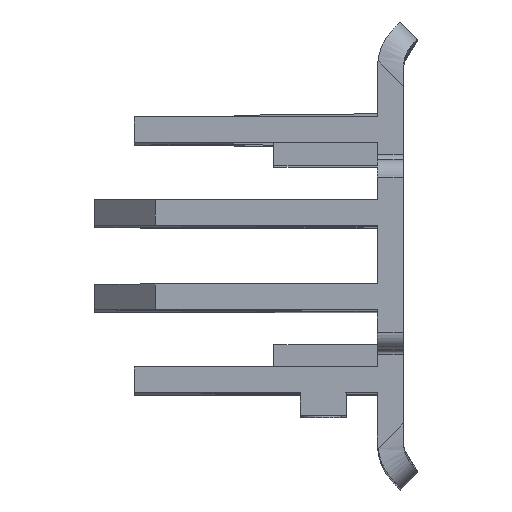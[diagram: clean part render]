
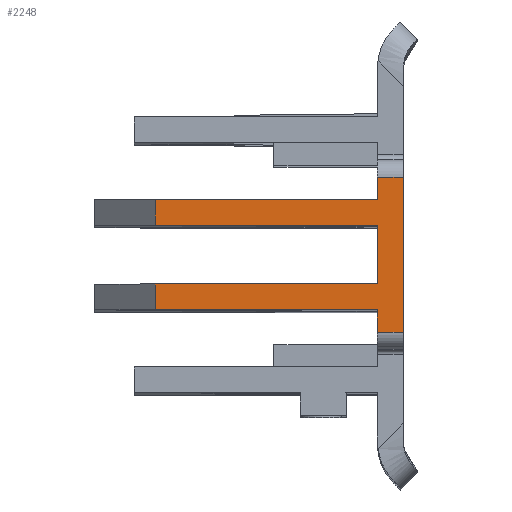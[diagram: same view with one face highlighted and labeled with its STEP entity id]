
A CAD part, top view. The second image highlights one B-rep face of the part: STEP entity #2248.
In plain terms, the highlighted planar face has unit normal (0, 0, 1).
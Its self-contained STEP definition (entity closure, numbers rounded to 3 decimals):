
#4 = EDGE_CURVE ( 'NONE', #1374, #4087, #2778, .T. ) ;
#18 = ORIENTED_EDGE ( 'NONE', *, *, #4246, .F. ) ;
#63 = CARTESIAN_POINT ( 'NONE',  ( 61., 10.658, 45. ) ) ;
#85 = ORIENTED_EDGE ( 'NONE', *, *, #457, .F. ) ;
#86 = EDGE_CURVE ( 'NONE', #1599, #775, #181, .T. ) ;
#106 = DIRECTION ( 'NONE',  ( 0., -1., 0. ) ) ;
#147 = VERTEX_POINT ( 'NONE', #1218 ) ;
#181 = LINE ( 'NONE', #4239, #628 ) ;
#230 = DIRECTION ( 'NONE',  ( -1., 0., 0. ) ) ;
#282 = EDGE_CURVE ( 'NONE', #1037, #2498, #3310, .T. ) ;
#295 = VECTOR ( 'NONE', #1263, 1000. ) ;
#300 = DIRECTION ( 'NONE',  ( 0., -1., 0. ) ) ;
#378 = LINE ( 'NONE', #2771, #776 ) ;
#396 = CARTESIAN_POINT ( 'NONE',  ( 61., 14.442, 45. ) ) ;
#457 = EDGE_CURVE ( 'NONE', #1599, #3271, #378, .T. ) ;
#613 = CARTESIAN_POINT ( 'NONE',  ( 59.5, 10.5, 45. ) ) ;
#628 = VECTOR ( 'NONE', #1148, 1000. ) ;
#700 = EDGE_CURVE ( 'NONE', #4155, #2790, #2575, .T. ) ;
#716 = LINE ( 'NONE', #1404, #3494 ) ;
#775 = VERTEX_POINT ( 'NONE', #4012 ) ;
#776 = VECTOR ( 'NONE', #1699, 1000. ) ;
#861 = ORIENTED_EDGE ( 'NONE', *, *, #3795, .T. ) ;
#884 = CARTESIAN_POINT ( 'NONE',  ( 46.616, 18.2, 45. ) ) ;
#917 = CARTESIAN_POINT ( 'NONE',  ( 59.5, 13.3, 45. ) ) ;
#975 = DIRECTION ( 'NONE',  ( 0., 0., 1. ) ) ;
#983 = EDGE_CURVE ( 'NONE', #3781, #3733, #2219, .T. ) ;
#1037 = VERTEX_POINT ( 'NONE', #1154 ) ;
#1148 = DIRECTION ( 'NONE',  ( -1., 0., 0. ) ) ;
#1151 = CARTESIAN_POINT ( 'NONE',  ( 46.616, 11.8, 45. ) ) ;
#1154 = CARTESIAN_POINT ( 'NONE',  ( 59.5, 11.8, 45. ) ) ;
#1178 = CARTESIAN_POINT ( 'NONE',  ( 59.5, 10.5, 45. ) ) ;
#1218 = CARTESIAN_POINT ( 'NONE',  ( 46.616, 13.3, 45. ) ) ;
#1233 = DIRECTION ( 'NONE',  ( 0., 1., 0. ) ) ;
#1257 = LINE ( 'NONE', #613, #3185 ) ;
#1263 = DIRECTION ( 'NONE',  ( -1., 0., 0. ) ) ;
#1374 = VERTEX_POINT ( 'NONE', #1902 ) ;
#1404 = CARTESIAN_POINT ( 'NONE',  ( 46.616, 13.3, 45. ) ) ;
#1487 = ORIENTED_EDGE ( 'NONE', *, *, #282, .F. ) ;
#1569 = EDGE_CURVE ( 'NONE', #4155, #147, #4330, .T. ) ;
#1589 = FACE_OUTER_BOUND ( 'NONE', #3401, .T. ) ;
#1599 = VERTEX_POINT ( 'NONE', #3683 ) ;
#1647 = VECTOR ( 'NONE', #4276, 1000. ) ;
#1661 = CARTESIAN_POINT ( 'NONE',  ( 61., 15.558, 45. ) ) ;
#1690 = CARTESIAN_POINT ( 'NONE',  ( 61., 15.558, 45. ) ) ;
#1698 = CARTESIAN_POINT ( 'NONE',  ( 46.616, 16.7, 45. ) ) ;
#1699 = DIRECTION ( 'NONE',  ( 0., 1., 0. ) ) ;
#1780 = ORIENTED_EDGE ( 'NONE', *, *, #2113, .T. ) ;
#1803 = LINE ( 'NONE', #3143, #4091 ) ;
#1825 = LINE ( 'NONE', #884, #1647 ) ;
#1849 = DIRECTION ( 'NONE',  ( 0., -1., 0. ) ) ;
#1878 = PLANE ( 'NONE',  #2864 ) ;
#1885 = DIRECTION ( 'NONE',  ( 0., -1., 0. ) ) ;
#1902 = CARTESIAN_POINT ( 'NONE',  ( 61., 19.342, 45. ) ) ;
#1906 = ORIENTED_EDGE ( 'NONE', *, *, #2890, .F. ) ;
#1928 = ORIENTED_EDGE ( 'NONE', *, *, #700, .F. ) ;
#2000 = EDGE_CURVE ( 'NONE', #3498, #1037, #1257, .T. ) ;
#2089 = EDGE_CURVE ( 'NONE', #775, #3542, #1825, .T. ) ;
#2098 = VECTOR ( 'NONE', #300, 1000. ) ;
#2113 = EDGE_CURVE ( 'NONE', #3150, #3271, #3501, .T. ) ;
#2177 = DIRECTION ( 'NONE',  ( -1., 0., 0. ) ) ;
#2188 = DIRECTION ( 'NONE',  ( 0., -1., 0. ) ) ;
#2214 = VECTOR ( 'NONE', #2177, 1000. ) ;
#2219 = LINE ( 'NONE', #4249, #2685 ) ;
#2248 = ADVANCED_FACE ( 'NONE', ( #1589 ), #1878, .T. ) ;
#2343 = CARTESIAN_POINT ( 'NONE',  ( 59.5, 11.8, 45. ) ) ;
#2454 = EDGE_CURVE ( 'NONE', #3150, #1374, #1803, .T. ) ;
#2498 = VERTEX_POINT ( 'NONE', #1151 ) ;
#2523 = DIRECTION ( 'NONE',  ( 1., 0., 0. ) ) ;
#2562 = EDGE_CURVE ( 'NONE', #4087, #3129, #3246, .T. ) ;
#2575 = LINE ( 'NONE', #3328, #3785 ) ;
#2601 = LINE ( 'NONE', #1178, #3676 ) ;
#2685 = VECTOR ( 'NONE', #1885, 1000. ) ;
#2752 = CARTESIAN_POINT ( 'NONE',  ( 59.5, 10.5, 45. ) ) ;
#2771 = CARTESIAN_POINT ( 'NONE',  ( 59.5, 18.2, 45. ) ) ;
#2778 = LINE ( 'NONE', #3446, #4272 ) ;
#2782 = ORIENTED_EDGE ( 'NONE', *, *, #1569, .T. ) ;
#2790 = VERTEX_POINT ( 'NONE', #3513 ) ;
#2864 = AXIS2_PLACEMENT_3D ( 'NONE', #4305, #975, #2977 ) ;
#2869 = LINE ( 'NONE', #3560, #3430 ) ;
#2890 = EDGE_CURVE ( 'NONE', #3129, #3781, #4165, .T. ) ;
#2935 = CARTESIAN_POINT ( 'NONE',  ( 59.5, 13.3, 45. ) ) ;
#2966 = ORIENTED_EDGE ( 'NONE', *, *, #983, .F. ) ;
#2977 = DIRECTION ( 'NONE',  ( 1., 0., 0. ) ) ;
#3129 = VERTEX_POINT ( 'NONE', #396 ) ;
#3133 = VECTOR ( 'NONE', #4017, 1000. ) ;
#3143 = CARTESIAN_POINT ( 'NONE',  ( 61., 19.5, 45. ) ) ;
#3150 = VERTEX_POINT ( 'NONE', #3416 ) ;
#3185 = VECTOR ( 'NONE', #1233, 1000. ) ;
#3228 = ORIENTED_EDGE ( 'NONE', *, *, #3457, .T. ) ;
#3246 = LINE ( 'NONE', #1661, #2098 ) ;
#3248 = ORIENTED_EDGE ( 'NONE', *, *, #4, .F. ) ;
#3271 = VERTEX_POINT ( 'NONE', #3921 ) ;
#3310 = LINE ( 'NONE', #2343, #3133 ) ;
#3328 = CARTESIAN_POINT ( 'NONE',  ( 59.5, 13.3, 45. ) ) ;
#3340 = ORIENTED_EDGE ( 'NONE', *, *, #2089, .T. ) ;
#3401 = EDGE_LOOP ( 'NONE', ( #3248, #3853, #1780, #85, #3462, #3340, #18, #1928, #2782, #861, #1487, #4074, #3228, #2966, #1906, #3802 ) ) ;
#3406 = DIRECTION ( 'NONE',  ( 0., -1., 0. ) ) ;
#3416 = CARTESIAN_POINT ( 'NONE',  ( 61., 19.5, 45. ) ) ;
#3430 = VECTOR ( 'NONE', #230, 1000. ) ;
#3446 = CARTESIAN_POINT ( 'NONE',  ( 61., 25.5, 45. ) ) ;
#3457 = EDGE_CURVE ( 'NONE', #3498, #3733, #2601, .T. ) ;
#3462 = ORIENTED_EDGE ( 'NONE', *, *, #86, .T. ) ;
#3494 = VECTOR ( 'NONE', #106, 1000. ) ;
#3498 = VERTEX_POINT ( 'NONE', #2752 ) ;
#3501 = LINE ( 'NONE', #3868, #2214 ) ;
#3513 = CARTESIAN_POINT ( 'NONE',  ( 59.5, 16.7, 45. ) ) ;
#3542 = VERTEX_POINT ( 'NONE', #1698 ) ;
#3560 = CARTESIAN_POINT ( 'NONE',  ( 59.5, 16.7, 45. ) ) ;
#3676 = VECTOR ( 'NONE', #2523, 1000. ) ;
#3683 = CARTESIAN_POINT ( 'NONE',  ( 59.5, 18.2, 45. ) ) ;
#3733 = VERTEX_POINT ( 'NONE', #4159 ) ;
#3781 = VERTEX_POINT ( 'NONE', #63 ) ;
#3785 = VECTOR ( 'NONE', #3965, 1000. ) ;
#3795 = EDGE_CURVE ( 'NONE', #147, #2498, #716, .T. ) ;
#3802 = ORIENTED_EDGE ( 'NONE', *, *, #2562, .F. ) ;
#3853 = ORIENTED_EDGE ( 'NONE', *, *, #2454, .F. ) ;
#3868 = CARTESIAN_POINT ( 'NONE',  ( 61., 19.5, 45. ) ) ;
#3921 = CARTESIAN_POINT ( 'NONE',  ( 59.5, 19.5, 45. ) ) ;
#3965 = DIRECTION ( 'NONE',  ( 0., 1., 0. ) ) ;
#4012 = CARTESIAN_POINT ( 'NONE',  ( 46.616, 18.2, 45. ) ) ;
#4017 = DIRECTION ( 'NONE',  ( -1., 0., 0. ) ) ;
#4074 = ORIENTED_EDGE ( 'NONE', *, *, #2000, .F. ) ;
#4087 = VERTEX_POINT ( 'NONE', #1690 ) ;
#4091 = VECTOR ( 'NONE', #1849, 1000. ) ;
#4104 = VECTOR ( 'NONE', #2188, 1000. ) ;
#4155 = VERTEX_POINT ( 'NONE', #917 ) ;
#4159 = CARTESIAN_POINT ( 'NONE',  ( 61., 10.5, 45. ) ) ;
#4165 = LINE ( 'NONE', #4189, #4104 ) ;
#4189 = CARTESIAN_POINT ( 'NONE',  ( 61., 25.5, 45. ) ) ;
#4239 = CARTESIAN_POINT ( 'NONE',  ( 59.5, 18.2, 45. ) ) ;
#4246 = EDGE_CURVE ( 'NONE', #2790, #3542, #2869, .T. ) ;
#4249 = CARTESIAN_POINT ( 'NONE',  ( 61., 10.658, 45. ) ) ;
#4272 = VECTOR ( 'NONE', #3406, 1000. ) ;
#4276 = DIRECTION ( 'NONE',  ( 0., -1., 0. ) ) ;
#4305 = CARTESIAN_POINT ( 'NONE',  ( -60.002, 18., 45. ) ) ;
#4330 = LINE ( 'NONE', #2935, #295 ) ;
